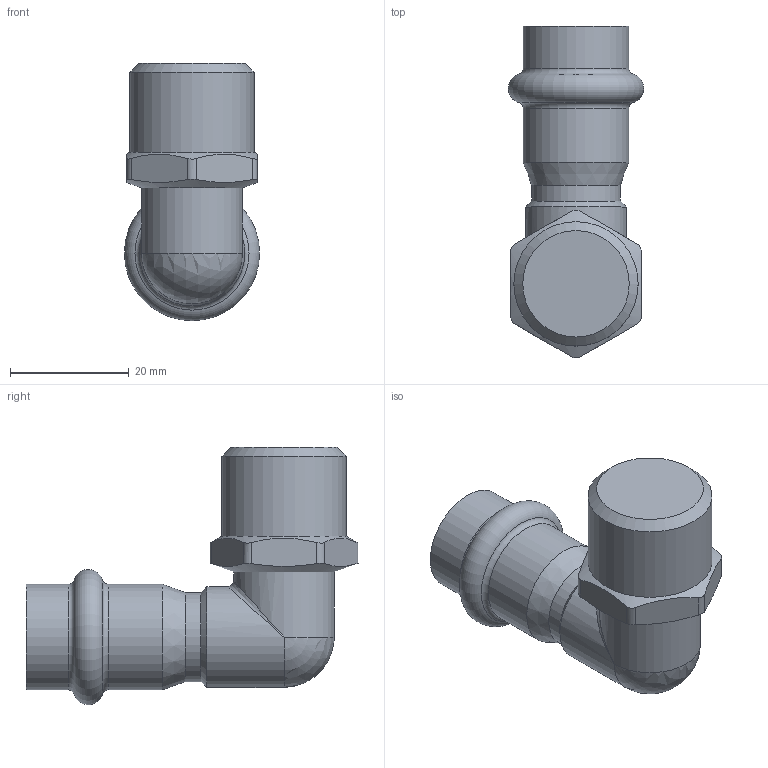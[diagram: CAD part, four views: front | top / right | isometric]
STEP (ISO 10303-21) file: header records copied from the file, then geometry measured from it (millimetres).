
FILE_DESCRIPTION(('STEP AP203'), '1');
FILE_NAME('VTi.953.I.001504', '', ('UNSPECIFIED'), ('UNSPECIFIED'), 'C3D Converter', 'C3D Toolkit', '');
FILE_SCHEMA(('CONFIG_CONTROL_DESIGN'));
Length unit declared in the file: millimetre
Bounding box: 22.79 x 55.97 x 43.39 mm (x, y, z)
Volume: 20582.6 mm3; surface area: 5252.1 mm2
Topology: 1 solids, 3 shells, 38 faces, 88 edges, 52 vertices
Faces by surface type: cylinder 16, plane 10, cone 5, sphere 3, torus 3, bspline 1
Full cylindrical faces by diameter (mm): 15 x1, 17 x2, 17.8 x2, 20.955 x1
Entity records: 2012 total; most frequent: CARTESIAN_POINT 1249, ORIENTED_EDGE 140, DIRECTION 134, EDGE_CURVE 70, AXIS2_PLACEMENT_3D 60, EDGE_LOOP 52, VERTEX_POINT 52, ADVANCED_FACE 38
